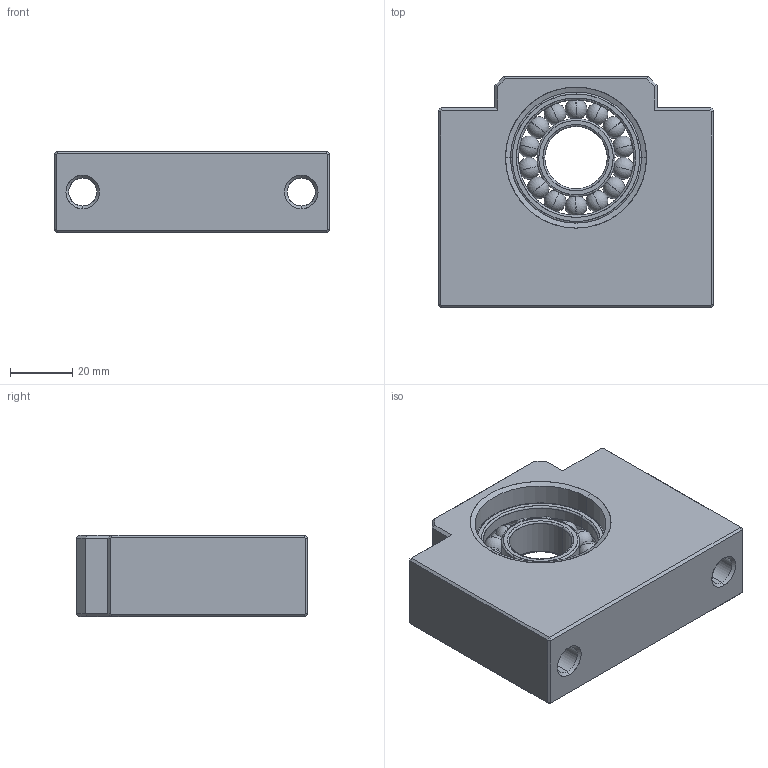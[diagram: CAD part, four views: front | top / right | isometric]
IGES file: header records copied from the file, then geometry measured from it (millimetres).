
Start section: SolidWorks IGES file using analytic representation for surfaces
Bounding box: 88 x 74 x 26 mm (x, y, z)
Surface area: 30315.2 mm2 (no closed solid volume)
Topology: 0 solids, 0 shells, 130 faces, 1332 edges, 1276 vertices
Faces by surface type: bspline 68, revolution 62
